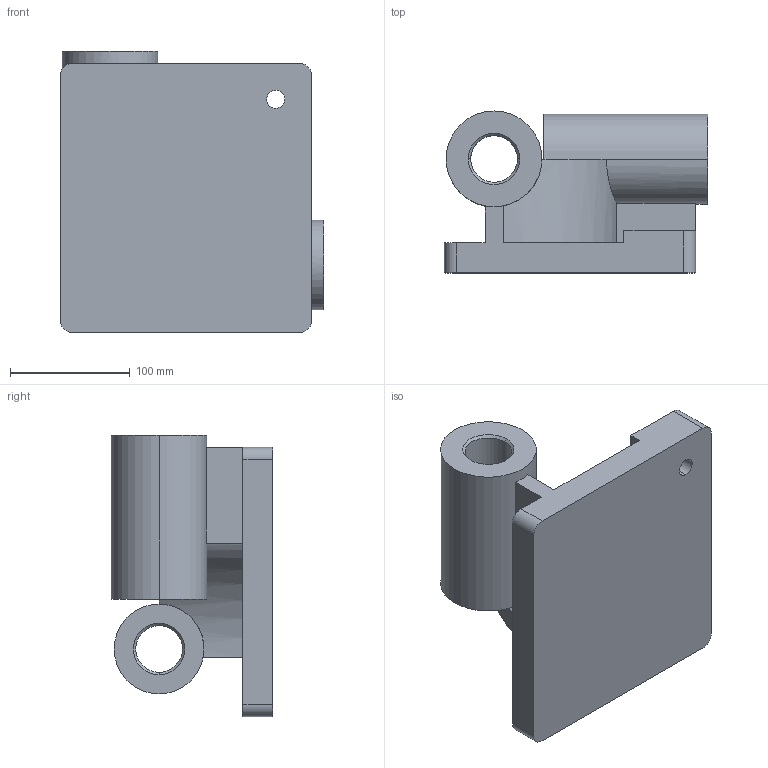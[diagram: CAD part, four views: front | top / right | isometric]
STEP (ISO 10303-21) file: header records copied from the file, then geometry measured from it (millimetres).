
FILE_DESCRIPTION (( 'STEP AP203' ), '1' );
FILE_NAME ('CSWP-Sample - Q2.STEP', '2019-10-03T02:12:09', ( '' ), ( '' ), 'SwSTEP 2.0', 'SolidWorks 2019', '' );
FILE_SCHEMA (( 'CONFIG_CONTROL_DESIGN' ));
Length unit declared in the file: millimetre
Products named in the file (1): CSWP-Sample - Q2
Bounding box: 220 x 135 x 235 mm (x, y, z)
Volume: 2141618.6 mm3; surface area: 261917.4 mm2
Topology: 1 solids, 1 shells, 62 faces, 162 edges, 104 vertices
Faces by surface type: cylinder 27, plane 27, cone 8
Entity records: 2123 total; most frequent: CARTESIAN_POINT 457, DIRECTION 348, ORIENTED_EDGE 324, EDGE_CURVE 162, AXIS2_PLACEMENT_3D 127, VERTEX_POINT 104, LINE 94, VECTOR 94
